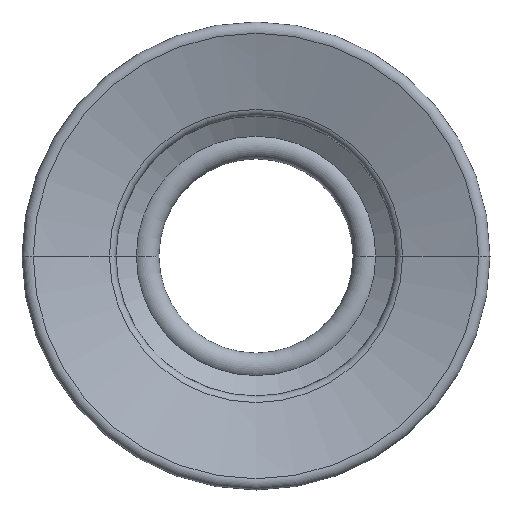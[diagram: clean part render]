
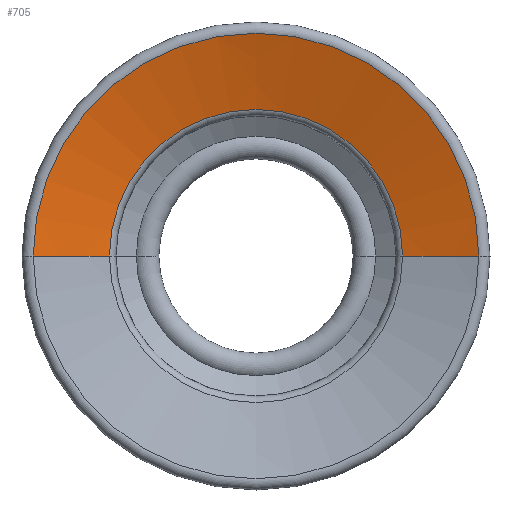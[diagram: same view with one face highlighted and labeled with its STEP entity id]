
A CAD part, front view. The second image highlights one B-rep face of the part: STEP entity #705.
In plain terms, the highlighted free-form (B-spline) face has degree [3, 3] with [7, 4] control points.
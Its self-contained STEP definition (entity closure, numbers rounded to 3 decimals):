
#15 = CARTESIAN_POINT ( 'NONE',  ( 16.28, -1.007, 26.454 ) ) ;
#24 = CARTESIAN_POINT ( 'NONE',  ( -26.276, -0.946, 0. ) ) ;
#28 = CARTESIAN_POINT ( 'NONE',  ( -10.525, 1.832, 17.103 ) ) ;
#29 = CARTESIAN_POINT ( 'NONE',  ( 0., -0.946, 0. ) ) ;
#44 = AXIS2_PLACEMENT_3D ( 'NONE', #817, #738, #157 ) ;
#58 = CIRCLE ( 'NONE', #251, 135. ) ;
#62 = CARTESIAN_POINT ( 'NONE',  ( 0., 1.784, 0. ) ) ;
#86 = CARTESIAN_POINT ( 'NONE',  ( 23.326, 0.052, -1.468 ) ) ;
#112 = AXIS2_PLACEMENT_3D ( 'NONE', #62, #135, #212 ) ;
#135 = DIRECTION ( 'NONE',  ( 0., -1., 0. ) ) ;
#149 = CARTESIAN_POINT ( 'NONE',  ( 20.213, 0.999, -1.272 ) ) ;
#157 = DIRECTION ( 'NONE',  ( -0.257, 0.966, 0. ) ) ;
#161 = CARTESIAN_POINT ( 'NONE',  ( 20.996, 0.999, 11.168 ) ) ;
#167 = CARTESIAN_POINT ( 'NONE',  ( 0., -1.007, 26.454 ) ) ;
#209 = CIRCLE ( 'NONE', #112, 17.284 ) ;
#212 = DIRECTION ( 'NONE',  ( 1., 0., 0. ) ) ;
#213 = CARTESIAN_POINT ( 'NONE',  ( -17.069, 1.832, -1.074 ) ) ;
#234 =( BOUNDED_SURFACE ( )  B_SPLINE_SURFACE ( 3, 3, ( 
 ( #719, #149, #86, #467 ),
 ( #878, #161, #671, #486 ),
 ( #256, #893, #905, #15 ),
 ( #880, #320, #899, #167 ),
 ( #28, #547, #297, #767 ),
 ( #608, #528, #772, #697 ),
 ( #213, #532, #373, #488 ) ),
 .UNSPECIFIED., .F., .F., .F. ) 
 B_SPLINE_SURFACE_WITH_KNOTS ( ( 4, 3, 4 ),
 ( 4, 4 ),
 ( 0., 1., 2. ),
 ( 0., 1. ),
 .UNSPECIFIED. ) 
 GEOMETRIC_REPRESENTATION_ITEM ( )  RATIONAL_B_SPLINE_SURFACE ( (
 ( 1.188, 1.187, 1.187, 1.188),
 ( 0.938, 0.937, 0.937, 0.938),
 ( 0.938, 0.937, 0.937, 0.938),
 ( 1.188, 1.187, 1.187, 1.188),
 ( 0.938, 0.937, 0.937, 0.938),
 ( 0.938, 0.937, 0.937, 0.938),
 ( 1.188, 1.187, 1.187, 1.188) ) ) 
 REPRESENTATION_ITEM ( '' )  SURFACE ( )  );
#251 = AXIS2_PLACEMENT_3D ( 'NONE', #1005, #691, #990 ) ;
#256 = CARTESIAN_POINT ( 'NONE',  ( 10.525, 1.832, 17.103 ) ) ;
#266 = VERTEX_POINT ( 'NONE', #24 ) ;
#273 = DIRECTION ( 'NONE',  ( 1., 0., 0. ) ) ;
#286 = CIRCLE ( 'NONE', #44, 135. ) ;
#297 = CARTESIAN_POINT ( 'NONE',  ( -14.383, 0.052, 23.372 ) ) ;
#307 = EDGE_CURVE ( 'NONE', #549, #698, #58, .T. ) ;
#320 = CARTESIAN_POINT ( 'NONE',  ( 0., 0.999, 20.253 ) ) ;
#353 = ORIENTED_EDGE ( 'NONE', *, *, #543, .F. ) ;
#373 = CARTESIAN_POINT ( 'NONE',  ( -23.326, 0.052, -1.468 ) ) ;
#402 = CIRCLE ( 'NONE', #992, 26.276 ) ;
#451 = CARTESIAN_POINT ( 'NONE',  ( -17.284, 1.784, 0. ) ) ;
#457 = EDGE_CURVE ( 'NONE', #698, #266, #402, .T. ) ;
#467 = CARTESIAN_POINT ( 'NONE',  ( 26.402, -1.007, -1.661 ) ) ;
#485 = EDGE_LOOP ( 'NONE', ( #983, #934, #353, #732 ) ) ;
#486 = CARTESIAN_POINT ( 'NONE',  ( 27.424, -1.007, 14.587 ) ) ;
#488 = CARTESIAN_POINT ( 'NONE',  ( -26.402, -1.007, -1.661 ) ) ;
#528 = CARTESIAN_POINT ( 'NONE',  ( -20.996, 0.999, 11.168 ) ) ;
#532 = CARTESIAN_POINT ( 'NONE',  ( -20.213, 0.999, -1.272 ) ) ;
#543 = EDGE_CURVE ( 'NONE', #549, #891, #209, .T. ) ;
#547 = CARTESIAN_POINT ( 'NONE',  ( -12.464, 0.999, 20.253 ) ) ;
#549 = VERTEX_POINT ( 'NONE', #623 ) ;
#608 = CARTESIAN_POINT ( 'NONE',  ( -17.73, 1.832, 9.43 ) ) ;
#623 = CARTESIAN_POINT ( 'NONE',  ( 17.284, 1.784, 0. ) ) ;
#650 = CARTESIAN_POINT ( 'NONE',  ( 26.276, -0.946, 0. ) ) ;
#671 = CARTESIAN_POINT ( 'NONE',  ( 24.229, 0.052, 12.887 ) ) ;
#691 = DIRECTION ( 'NONE',  ( 0., 0., -1. ) ) ;
#693 = EDGE_CURVE ( 'NONE', #891, #266, #286, .T. ) ;
#697 = CARTESIAN_POINT ( 'NONE',  ( -27.424, -1.007, 14.587 ) ) ;
#698 = VERTEX_POINT ( 'NONE', #650 ) ;
#705 = ADVANCED_FACE ( 'NONE', ( #976 ), #234, .F. ) ;
#719 = CARTESIAN_POINT ( 'NONE',  ( 17.069, 1.832, -1.074 ) ) ;
#732 = ORIENTED_EDGE ( 'NONE', *, *, #307, .T. ) ;
#738 = DIRECTION ( 'NONE',  ( 0., 0., 1. ) ) ;
#767 = CARTESIAN_POINT ( 'NONE',  ( -16.28, -1.007, 26.454 ) ) ;
#772 = CARTESIAN_POINT ( 'NONE',  ( -24.229, 0.052, 12.887 ) ) ;
#817 = CARTESIAN_POINT ( 'NONE',  ( 17.412, -128.682, 0. ) ) ;
#878 = CARTESIAN_POINT ( 'NONE',  ( 17.73, 1.832, 9.43 ) ) ;
#880 = CARTESIAN_POINT ( 'NONE',  ( 0., 1.832, 17.103 ) ) ;
#891 = VERTEX_POINT ( 'NONE', #451 ) ;
#893 = CARTESIAN_POINT ( 'NONE',  ( 12.464, 0.999, 20.253 ) ) ;
#899 = CARTESIAN_POINT ( 'NONE',  ( 0., 0.052, 23.372 ) ) ;
#905 = CARTESIAN_POINT ( 'NONE',  ( 14.383, 0.052, 23.372 ) ) ;
#918 = DIRECTION ( 'NONE',  ( 0., -1., 0. ) ) ;
#934 = ORIENTED_EDGE ( 'NONE', *, *, #693, .F. ) ;
#976 = FACE_OUTER_BOUND ( 'NONE', #485, .T. ) ;
#983 = ORIENTED_EDGE ( 'NONE', *, *, #457, .T. ) ;
#990 = DIRECTION ( 'NONE',  ( 0.257, 0.966, 0. ) ) ;
#992 = AXIS2_PLACEMENT_3D ( 'NONE', #29, #918, #273 ) ;
#1005 = CARTESIAN_POINT ( 'NONE',  ( -17.412, -128.682, 0. ) ) ;
